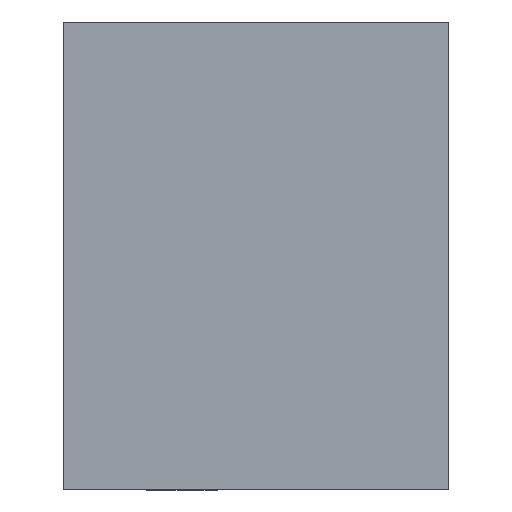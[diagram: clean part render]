
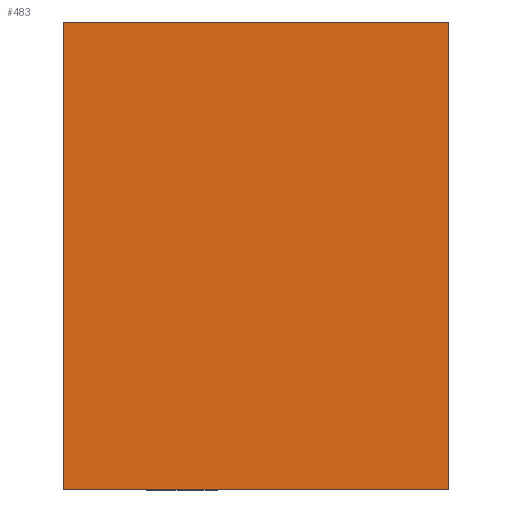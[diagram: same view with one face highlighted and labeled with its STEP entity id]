
A CAD part, left-side view. The second image highlights one B-rep face of the part: STEP entity #483.
In plain terms, the highlighted planar face has unit normal (-1, 0, 0).
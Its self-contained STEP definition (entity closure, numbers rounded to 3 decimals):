
#18 = EDGE_CURVE ( 'NONE', #867, #429, #103, .T. ) ;
#23 = ORIENTED_EDGE ( 'NONE', *, *, #687, .T. ) ;
#80 = ORIENTED_EDGE ( 'NONE', *, *, #18, .F. ) ;
#103 = LINE ( 'NONE', #210, #865 ) ;
#124 = VERTEX_POINT ( 'NONE', #776 ) ;
#156 = DIRECTION ( 'NONE',  ( 0., 0., -1. ) ) ;
#210 = CARTESIAN_POINT ( 'NONE',  ( 0., 0., 14. ) ) ;
#236 = CARTESIAN_POINT ( 'NONE',  ( 0., 17., 14. ) ) ;
#245 = EDGE_LOOP ( 'NONE', ( #23, #877, #80, #422 ) ) ;
#289 = DIRECTION ( 'NONE',  ( 0., -1., 0. ) ) ;
#348 = EDGE_CURVE ( 'NONE', #867, #670, #822, .T. ) ;
#383 = DIRECTION ( 'NONE',  ( 0., -1., 0. ) ) ;
#390 = CARTESIAN_POINT ( 'NONE',  ( 0., 0., 14. ) ) ;
#393 = DIRECTION ( 'NONE',  ( 0., 0., -1. ) ) ;
#422 = ORIENTED_EDGE ( 'NONE', *, *, #348, .T. ) ;
#429 = VERTEX_POINT ( 'NONE', #390 ) ;
#453 = VECTOR ( 'NONE', #383, 1000. ) ;
#468 = DIRECTION ( 'NONE',  ( 1., 0., 0. ) ) ;
#483 = ADVANCED_FACE ( 'NONE', ( #594 ), #924, .F. ) ;
#497 = EDGE_CURVE ( 'NONE', #429, #124, #923, .T. ) ;
#531 = CARTESIAN_POINT ( 'NONE',  ( 0., 17., 0. ) ) ;
#532 = VECTOR ( 'NONE', #897, 1000. ) ;
#594 = FACE_OUTER_BOUND ( 'NONE', #245, .T. ) ;
#670 = VERTEX_POINT ( 'NONE', #531 ) ;
#687 = EDGE_CURVE ( 'NONE', #670, #124, #887, .T. ) ;
#703 = CARTESIAN_POINT ( 'NONE',  ( 0., 0., 14. ) ) ;
#719 = VECTOR ( 'NONE', #393, 1000. ) ;
#745 = CARTESIAN_POINT ( 'NONE',  ( 0., 17., 14. ) ) ;
#763 = CARTESIAN_POINT ( 'NONE',  ( 0., 0., 0. ) ) ;
#776 = CARTESIAN_POINT ( 'NONE',  ( 0., 0., 0. ) ) ;
#807 = AXIS2_PLACEMENT_3D ( 'NONE', #703, #468, #156 ) ;
#822 = LINE ( 'NONE', #745, #532 ) ;
#835 = CARTESIAN_POINT ( 'NONE',  ( 0., 0., 14. ) ) ;
#865 = VECTOR ( 'NONE', #289, 1000. ) ;
#867 = VERTEX_POINT ( 'NONE', #236 ) ;
#877 = ORIENTED_EDGE ( 'NONE', *, *, #497, .F. ) ;
#887 = LINE ( 'NONE', #763, #453 ) ;
#897 = DIRECTION ( 'NONE',  ( 0., 0., -1. ) ) ;
#923 = LINE ( 'NONE', #835, #719 ) ;
#924 = PLANE ( 'NONE',  #807 ) ;
